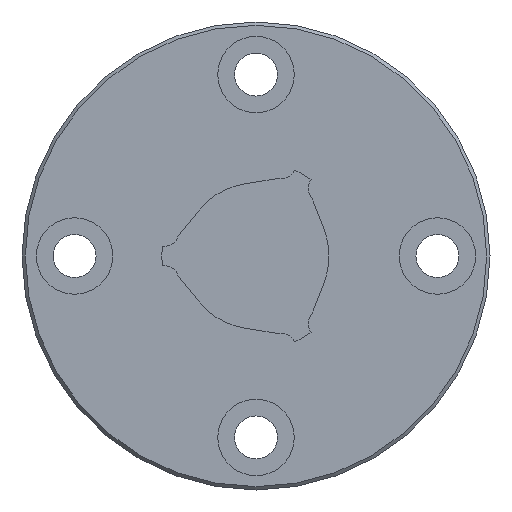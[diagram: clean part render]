
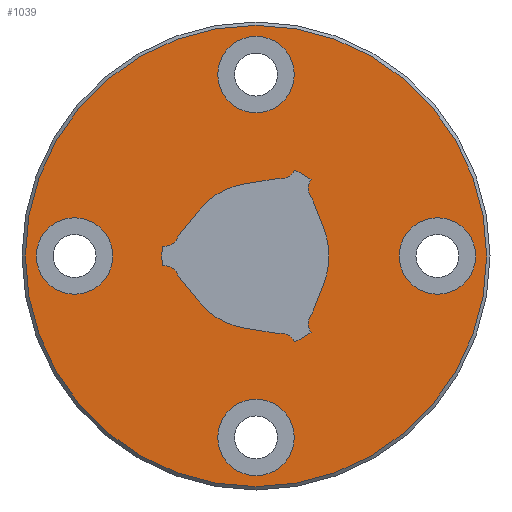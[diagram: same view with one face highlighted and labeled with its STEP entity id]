
A CAD part, left-side view. The second image highlights one B-rep face of the part: STEP entity #1039.
In plain terms, the highlighted planar face has unit normal (-1, 0, 0).
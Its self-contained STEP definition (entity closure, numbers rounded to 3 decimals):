
#45=PLANE('',#1156);
#91=LINE('',#1728,#151);
#92=LINE('',#1737,#152);
#93=LINE('',#1741,#153);
#94=LINE('',#1749,#154);
#95=LINE('',#1753,#155);
#96=LINE('',#1761,#156);
#151=VECTOR('',#1389,1000.);
#152=VECTOR('',#1396,1000.);
#153=VECTOR('',#1399,1000.);
#154=VECTOR('',#1406,1000.);
#155=VECTOR('',#1409,1000.);
#156=VECTOR('',#1416,1000.);
#289=ORIENTED_EDGE('',*,*,#513,.F.);
#290=ORIENTED_EDGE('',*,*,#514,.F.);
#291=ORIENTED_EDGE('',*,*,#515,.T.);
#292=ORIENTED_EDGE('',*,*,#516,.T.);
#293=ORIENTED_EDGE('',*,*,#517,.T.);
#294=ORIENTED_EDGE('',*,*,#518,.T.);
#295=ORIENTED_EDGE('',*,*,#519,.F.);
#296=ORIENTED_EDGE('',*,*,#520,.T.);
#297=ORIENTED_EDGE('',*,*,#521,.F.);
#298=ORIENTED_EDGE('',*,*,#522,.T.);
#299=ORIENTED_EDGE('',*,*,#523,.T.);
#300=ORIENTED_EDGE('',*,*,#524,.T.);
#301=ORIENTED_EDGE('',*,*,#525,.F.);
#302=ORIENTED_EDGE('',*,*,#526,.T.);
#303=ORIENTED_EDGE('',*,*,#527,.F.);
#304=ORIENTED_EDGE('',*,*,#528,.T.);
#305=ORIENTED_EDGE('',*,*,#529,.T.);
#306=ORIENTED_EDGE('',*,*,#530,.T.);
#307=ORIENTED_EDGE('',*,*,#531,.F.);
#308=ORIENTED_EDGE('',*,*,#532,.T.);
#309=ORIENTED_EDGE('',*,*,#533,.F.);
#310=ORIENTED_EDGE('',*,*,#534,.T.);
#311=ORIENTED_EDGE('',*,*,#535,.T.);
#513=EDGE_CURVE('',#634,#634,#725,.T.);
#514=EDGE_CURVE('',#635,#635,#726,.F.);
#515=EDGE_CURVE('',#636,#636,#727,.T.);
#516=EDGE_CURVE('',#637,#637,#728,.T.);
#517=EDGE_CURVE('',#638,#638,#729,.T.);
#518=EDGE_CURVE('',#639,#640,#91,.T.);
#519=EDGE_CURVE('',#641,#640,#730,.T.);
#520=EDGE_CURVE('',#641,#642,#731,.T.);
#521=EDGE_CURVE('',#643,#642,#732,.T.);
#522=EDGE_CURVE('',#643,#644,#92,.T.);
#523=EDGE_CURVE('',#644,#645,#733,.T.);
#524=EDGE_CURVE('',#645,#646,#93,.T.);
#525=EDGE_CURVE('',#647,#646,#734,.T.);
#526=EDGE_CURVE('',#647,#648,#735,.T.);
#527=EDGE_CURVE('',#649,#648,#736,.T.);
#528=EDGE_CURVE('',#649,#650,#94,.T.);
#529=EDGE_CURVE('',#650,#651,#737,.T.);
#530=EDGE_CURVE('',#651,#652,#95,.T.);
#531=EDGE_CURVE('',#653,#652,#738,.T.);
#532=EDGE_CURVE('',#653,#654,#739,.T.);
#533=EDGE_CURVE('',#655,#654,#740,.T.);
#534=EDGE_CURVE('',#655,#656,#96,.T.);
#535=EDGE_CURVE('',#656,#639,#741,.T.);
#634=VERTEX_POINT('',#1719);
#635=VERTEX_POINT('',#1721);
#636=VERTEX_POINT('',#1723);
#637=VERTEX_POINT('',#1725);
#638=VERTEX_POINT('',#1727);
#639=VERTEX_POINT('',#1729);
#640=VERTEX_POINT('',#1730);
#641=VERTEX_POINT('',#1732);
#642=VERTEX_POINT('',#1734);
#643=VERTEX_POINT('',#1736);
#644=VERTEX_POINT('',#1738);
#645=VERTEX_POINT('',#1740);
#646=VERTEX_POINT('',#1742);
#647=VERTEX_POINT('',#1744);
#648=VERTEX_POINT('',#1746);
#649=VERTEX_POINT('',#1748);
#650=VERTEX_POINT('',#1750);
#651=VERTEX_POINT('',#1752);
#652=VERTEX_POINT('',#1754);
#653=VERTEX_POINT('',#1756);
#654=VERTEX_POINT('',#1758);
#655=VERTEX_POINT('',#1760);
#656=VERTEX_POINT('',#1762);
#725=CIRCLE('',#1157,24.15);
#726=CIRCLE('',#1158,4.);
#727=CIRCLE('',#1159,4.);
#728=CIRCLE('',#1160,4.);
#729=CIRCLE('',#1161,4.);
#730=CIRCLE('',#1162,1.65);
#731=CIRCLE('',#1163,9.85);
#732=CIRCLE('',#1164,1.65);
#733=CIRCLE('',#1165,7.65);
#734=CIRCLE('',#1166,1.65);
#735=CIRCLE('',#1167,9.85);
#736=CIRCLE('',#1168,1.65);
#737=CIRCLE('',#1169,7.65);
#738=CIRCLE('',#1170,1.65);
#739=CIRCLE('',#1171,9.85);
#740=CIRCLE('',#1172,1.65);
#741=CIRCLE('',#1173,7.65);
#797=EDGE_LOOP('',(#289));
#798=EDGE_LOOP('',(#290));
#799=EDGE_LOOP('',(#291));
#800=EDGE_LOOP('',(#292));
#801=EDGE_LOOP('',(#293));
#802=EDGE_LOOP('',(#294,#295,#296,#297,#298,#299,#300,#301,#302,#303,#304,
#305,#306,#307,#308,#309,#310,#311));
#899=FACE_BOUND('',#797,.T.);
#900=FACE_BOUND('',#798,.T.);
#901=FACE_BOUND('',#799,.T.);
#902=FACE_BOUND('',#800,.T.);
#903=FACE_BOUND('',#801,.T.);
#904=FACE_BOUND('',#802,.T.);
#1039=ADVANCED_FACE('',(#899,#900,#901,#902,#903,#904),#45,.F.);
#1156=AXIS2_PLACEMENT_3D('',#1717,#1377,#1378);
#1157=AXIS2_PLACEMENT_3D('',#1718,#1379,#1380);
#1158=AXIS2_PLACEMENT_3D('',#1720,#1381,#1382);
#1159=AXIS2_PLACEMENT_3D('',#1722,#1383,#1384);
#1160=AXIS2_PLACEMENT_3D('',#1724,#1385,#1386);
#1161=AXIS2_PLACEMENT_3D('',#1726,#1387,#1388);
#1162=AXIS2_PLACEMENT_3D('',#1731,#1390,#1391);
#1163=AXIS2_PLACEMENT_3D('',#1733,#1392,#1393);
#1164=AXIS2_PLACEMENT_3D('',#1735,#1394,#1395);
#1165=AXIS2_PLACEMENT_3D('',#1739,#1397,#1398);
#1166=AXIS2_PLACEMENT_3D('',#1743,#1400,#1401);
#1167=AXIS2_PLACEMENT_3D('',#1745,#1402,#1403);
#1168=AXIS2_PLACEMENT_3D('',#1747,#1404,#1405);
#1169=AXIS2_PLACEMENT_3D('',#1751,#1407,#1408);
#1170=AXIS2_PLACEMENT_3D('',#1755,#1410,#1411);
#1171=AXIS2_PLACEMENT_3D('',#1757,#1412,#1413);
#1172=AXIS2_PLACEMENT_3D('',#1759,#1414,#1415);
#1173=AXIS2_PLACEMENT_3D('',#1763,#1417,#1418);
#1377=DIRECTION('',(1.,0.,0.));
#1378=DIRECTION('',(0.,1.,0.));
#1379=DIRECTION('',(1.,0.,0.));
#1380=DIRECTION('',(0.,1.,0.));
#1381=DIRECTION('',(1.,0.,0.));
#1382=DIRECTION('',(0.,1.,0.));
#1383=DIRECTION('',(1.,0.,0.));
#1384=DIRECTION('',(0.,0.,-1.));
#1385=DIRECTION('',(1.,0.,0.));
#1386=DIRECTION('',(0.,0.,-1.));
#1387=DIRECTION('',(1.,0.,0.));
#1388=DIRECTION('',(0.,0.,-1.));
#1389=DIRECTION('',(0.,-0.988,0.156));
#1390=DIRECTION('',(1.,0.,0.));
#1391=DIRECTION('',(0.,0.,-1.));
#1392=DIRECTION('',(1.,0.,0.));
#1393=DIRECTION('',(0.,0.,-1.));
#1394=DIRECTION('',(1.,0.,0.));
#1395=DIRECTION('',(0.,0.,-1.));
#1396=DIRECTION('',(0.,-0.358,-0.934));
#1397=DIRECTION('',(1.,0.,0.));
#1398=DIRECTION('',(0.,0.,-1.));
#1399=DIRECTION('',(0.,0.358,-0.934));
#1400=DIRECTION('',(1.,0.,0.));
#1401=DIRECTION('',(0.,0.,-1.));
#1402=DIRECTION('',(1.,0.,0.));
#1403=DIRECTION('',(0.,0.,-1.));
#1404=DIRECTION('',(1.,0.,0.));
#1405=DIRECTION('',(0.,0.,-1.));
#1406=DIRECTION('',(0.,0.988,0.156));
#1407=DIRECTION('',(1.,0.,0.));
#1408=DIRECTION('',(0.,0.,-1.));
#1409=DIRECTION('',(0.,0.629,0.777));
#1410=DIRECTION('',(1.,0.,0.));
#1411=DIRECTION('',(0.,0.,-1.));
#1412=DIRECTION('',(1.,0.,0.));
#1413=DIRECTION('',(0.,0.,-1.));
#1414=DIRECTION('',(1.,0.,0.));
#1415=DIRECTION('',(0.,0.,-1.));
#1416=DIRECTION('',(0.,-0.629,0.777));
#1417=DIRECTION('',(1.,0.,0.));
#1418=DIRECTION('',(0.,0.,-1.));
#1717=CARTESIAN_POINT('',(0.,0.,0.));
#1718=CARTESIAN_POINT('',(0.,0.,0.));
#1719=CARTESIAN_POINT('',(0.,24.15,0.));
#1720=CARTESIAN_POINT('',(0.,19.,0.));
#1721=CARTESIAN_POINT('',(0.,23.,0.));
#1722=CARTESIAN_POINT('',(0.,0.,19.));
#1723=CARTESIAN_POINT('',(0.,0.,15.));
#1724=CARTESIAN_POINT('',(0.,-19.,0.));
#1725=CARTESIAN_POINT('',(0.,-19.,-4.));
#1726=CARTESIAN_POINT('',(0.,0.,-19.));
#1727=CARTESIAN_POINT('',(0.,0.,-23.));
#1728=CARTESIAN_POINT('',(0.,1.197,7.556));
#1729=CARTESIAN_POINT('',(0.,1.197,7.556));
#1730=CARTESIAN_POINT('',(0.,-2.222,8.097));
#1731=CARTESIAN_POINT('',(0.,-2.557,9.713));
#1732=CARTESIAN_POINT('',(0.,-4.038,8.984));
#1733=CARTESIAN_POINT('',(0.,0.,0.));
#1734=CARTESIAN_POINT('',(0.,-5.762,7.989));
#1735=CARTESIAN_POINT('',(0.,-7.133,7.071));
#1736=CARTESIAN_POINT('',(0.,-5.901,5.973));
#1737=CARTESIAN_POINT('',(0.,-5.901,5.973));
#1738=CARTESIAN_POINT('',(0.,-7.142,2.742));
#1739=CARTESIAN_POINT('',(0.,0.,0.));
#1740=CARTESIAN_POINT('',(0.,-7.142,-2.742));
#1741=CARTESIAN_POINT('',(0.,-7.142,-2.742));
#1742=CARTESIAN_POINT('',(0.,-5.901,-5.973));
#1743=CARTESIAN_POINT('',(0.,-7.133,-7.071));
#1744=CARTESIAN_POINT('',(0.,-5.762,-7.989));
#1745=CARTESIAN_POINT('',(0.,0.,0.));
#1746=CARTESIAN_POINT('',(0.,-4.038,-8.984));
#1747=CARTESIAN_POINT('',(0.,-2.557,-9.713));
#1748=CARTESIAN_POINT('',(0.,-2.222,-8.097));
#1749=CARTESIAN_POINT('',(0.,-2.222,-8.097));
#1750=CARTESIAN_POINT('',(0.,1.197,-7.556));
#1751=CARTESIAN_POINT('',(0.,0.,0.));
#1752=CARTESIAN_POINT('',(0.,5.945,-4.814));
#1753=CARTESIAN_POINT('',(0.,5.945,-4.814));
#1754=CARTESIAN_POINT('',(0.,8.123,-2.124));
#1755=CARTESIAN_POINT('',(0.,9.69,-2.642));
#1756=CARTESIAN_POINT('',(0.,9.8,-0.995));
#1757=CARTESIAN_POINT('',(0.,0.,0.));
#1758=CARTESIAN_POINT('',(0.,9.8,0.995));
#1759=CARTESIAN_POINT('',(0.,9.69,2.642));
#1760=CARTESIAN_POINT('',(0.,8.123,2.124));
#1761=CARTESIAN_POINT('',(0.,8.123,2.124));
#1762=CARTESIAN_POINT('',(0.,5.945,4.814));
#1763=CARTESIAN_POINT('',(0.,0.,0.));
